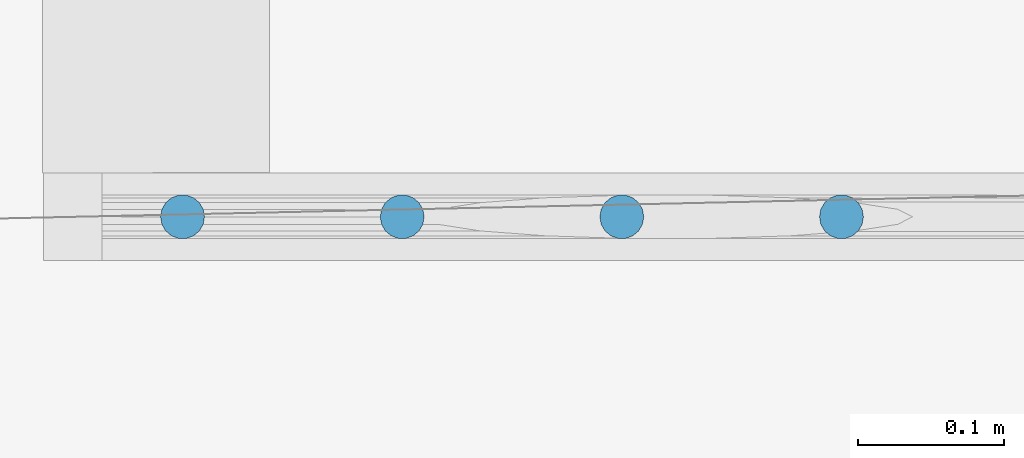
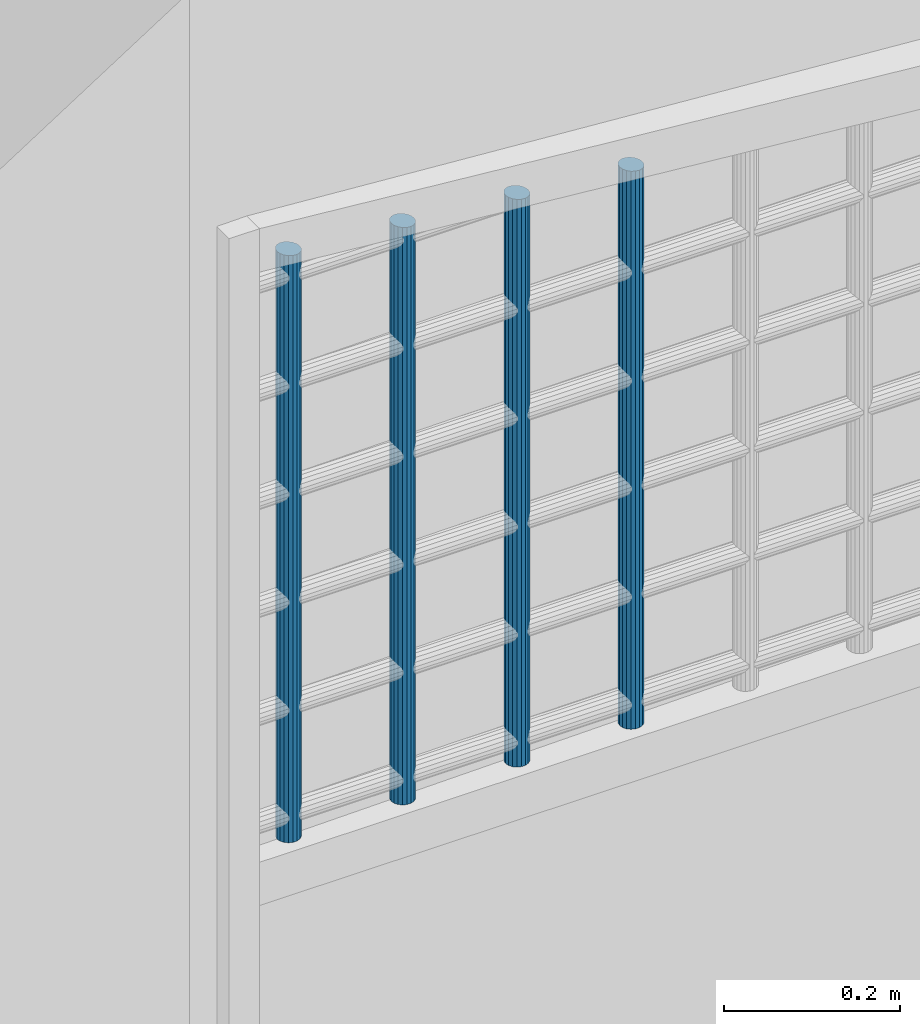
# One storey, part 56 of 133: 4 members, 1 element without a shape of its own.
"""IFC2X3 building model written with IfcOpenShell, lengths in centimetres."""

from ifc_helpers import new_model, entity, si_unit, converted_unit, direction, frame, origin, origin_with_axes, place, context, subcontext, project, spatial, faceted_brep, material, type_object, element, aggregate, save


model = new_model("IFC2X3")

# Units and contexts
model_context = context("Model", 3, precision=0.0001, world=origin(), true_north=direction((0.225632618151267, 0.974212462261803, 0.0)))
body_context = subcontext(model_context, "Body", "Model", "MODEL_VIEW")
ifc_project = project(units=[si_unit("LENGTHUNIT", "METRE", prefix="CENTI"), si_unit("AREAUNIT", "SQUARE_METRE", prefix="CENTI"), si_unit("VOLUMEUNIT", "CUBIC_METRE", prefix="CENTI"), converted_unit("PLANEANGLEUNIT", "DEGREE", entity("IfcRatioMeasure", 0.0174532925), si_unit("PLANEANGLEUNIT", "RADIAN"), dimensions=[0, 0, 0, 0, 0, 0, 0])], contexts=[model_context])

# Site, building, storey
site_placement = place(None, origin_with_axes())
site = spatial("IfcSite", under=ifc_project, at=site_placement, Name="Default Site", CompositionType="ELEMENT")
building_placement = place(site_placement, origin_with_axes())
building = spatial("IfcBuilding", under=site, at=building_placement, Name="Default Building", CompositionType="ELEMENT")
storey_placement = place(building_placement, frame((0.0, 0.0, -291.400371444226), z_axis=(0.0, 0.0, 1.0), x_axis=(1.0, 0.0, 0.0)))
storey = spatial("IfcBuildingStorey", under=building, at=storey_placement, Name="Rez-de-Jardin", CompositionType="ELEMENT", Elevation=-291.400371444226)

# Assembly, members
building_element_proxy_type = type_object("IfcBuildingElementProxyType", Name="Type Object", PredefinedType="NOTDEFINED")
assembly_placement = place(storey_placement, frame((-151.298940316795, 206.642558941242, 0.0), z_axis=(0.0, 0.0, 1.0), x_axis=(1.0, 0.0, 0.0)))
assembly = element("IfcElementAssembly", 1, at=assembly_placement, inside=storey, type_object=building_element_proxy_type, Name="Panneau 76235", ObjectType="Precast panel", PredefinedType="USERDEFINED")
ifc_material = material(Name="Noyer 01")
member_1_placement = place(assembly_placement, frame((10.9095387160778, -2.48696978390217, 158.35565328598), z_axis=(0.089400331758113, 6.5936123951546e-06, 0.995995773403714), x_axis=(0.499497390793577, -0.865154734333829, -0.0448290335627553)))
member_1 = element("IfcMember", 2, at=member_1_placement, material=ifc_material, Name="4294966767", context=body_context, shape_type="Brep", body=[
    faceted_brep([(2.42861286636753e-14, -1.52655665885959e-14, 4.44089209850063e-14), (-0.52146878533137, -1.52655664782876e-14, 3.97427529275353e-06), (-1.01211017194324, -0.178710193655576, 7.71360538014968e-06), (-1.41274550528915, -0.514575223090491, 1.0766971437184e-05), (-1.675052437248, -0.967085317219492, 1.27660938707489e-05), (-1.76739237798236, -1.48166021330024, 1.34698451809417e-05), (-1.67862811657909, -1.99623499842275, 1.27933452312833e-05), (-1.41946572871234, -2.44874417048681, 1.08181883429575e-05), (-1.02116428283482, -2.78460887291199, 7.7826095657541e-06), (-0.531764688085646, -2.96331862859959, 4.0527435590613e-06), (-0.0102959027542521, -2.96331862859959, 7.84683107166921e-08), (0.480345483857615, -2.78460843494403, -3.66086177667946e-06), (0.880980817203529, -2.44874340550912, -6.71422783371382e-06), (1.14328774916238, -1.99623331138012, -8.71335026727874e-06), (1.23562768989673, -1.48165841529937, -9.41710157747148e-06), (1.14686342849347, -0.967083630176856, -8.74060162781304e-06), (0.887701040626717, -0.5145744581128, -6.76544473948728e-06), (0.489399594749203, -0.178709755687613, -3.72986596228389e-06), (4.13437608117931, 6.11036513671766, -80.9828132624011), (4.53304145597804, 5.7751283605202, -80.9909039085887), (4.79325180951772, 5.32442735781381, -81.0141931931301), (4.88362195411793, 4.81262337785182, -81.0498720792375), (4.79325182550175, 4.30144721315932, -81.0936371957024), (4.53304135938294, 3.8525543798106, -81.1402098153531), (4.1343758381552, 3.52008808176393, -81.1839725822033), (3.64534033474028, 3.34414869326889, -81.2196470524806), (3.1249195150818, 3.34595686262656, -81.2429303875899), (2.63588384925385, 3.52529454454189, -81.2510142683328), (2.23721847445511, 3.86053132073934, -81.2429236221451), (1.97700812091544, 4.31123232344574, -81.2196343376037), (1.88663797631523, 4.82303630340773, -81.1839554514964), (1.97700810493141, 5.33421246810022, -81.1401903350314), (2.23721857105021, 5.78310530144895, -81.0936177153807), (2.63588409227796, 6.11557159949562, -81.0498549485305), (3.12491959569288, 6.29151098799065, -81.0141804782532), (3.64534041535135, 6.28970281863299, -80.9908971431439), (0.489399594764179, -0.178709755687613, -1.76495289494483e-06), (0.88770113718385, -0.514574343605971, -6.75220624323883e-06), (4.53304155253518, 5.77512847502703, -80.9909038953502), (4.1343760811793, 6.11036513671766, -80.9828132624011), (0.887701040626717, -0.5145744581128, -6.7654447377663e-06), (1.14686345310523, -0.967083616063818, -1.27126717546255e-05), (4.79325183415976, 5.32442737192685, -81.014193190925), (1.14686342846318, -0.967083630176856, -1.27148768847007e-05), (1.2356276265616, -1.48165842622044, -1.26541447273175e-05), (4.88362189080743, 4.81262336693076, -81.0498720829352), (1.23562768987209, -1.48165841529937, -1.26504470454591e-05), (1.14328772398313, -1.99623330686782, -1.31714603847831e-05), (4.79325180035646, 4.30144721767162, -81.0936371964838), (1.14328774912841, -1.99623331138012, -1.31706790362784e-05), (0.880980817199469, -2.44874340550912, -7.24691631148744e-06), (4.53304135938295, 3.8525543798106, -81.1402098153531), (0.480345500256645, -2.78460845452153, -5.41831519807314e-06), (4.13437585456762, 3.52008806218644, -81.183972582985), (0.480345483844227, -2.78460843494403, -5.41753353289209e-06), (-0.0102958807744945, -2.96331868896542, -9.40972012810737e-07), (3.64534035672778, 3.34414863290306, -81.219647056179), (-0.0102959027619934, -2.96331862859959, -9.37273680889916e-07), (-0.531764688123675, -2.96331860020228, -9.35068341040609e-07), (3.12491951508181, 3.34595689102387, -81.2429303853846), (-0.531764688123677, -2.96331862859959, -9.37273658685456e-07), (-1.02116423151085, -2.78460873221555, 8.40918097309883e-07), (2.63588390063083, 3.52529468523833, -81.2510142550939), (-1.02116428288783, -2.78460887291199, 8.27679258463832e-07), (-1.4194658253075, -2.44874428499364, 5.81493262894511e-06), (2.23721837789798, 3.86053120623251, -81.2429236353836), (-1.41946572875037, -2.44874417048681, 5.82817112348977e-06), (-1.67862814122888, -1.99623501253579, 1.17753981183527e-05), (1.97700809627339, 4.3112323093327, -81.2196343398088), (-1.67862811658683, -1.99623499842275, 1.17776032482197e-05), (-1.76739231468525, -1.48166020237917, 1.17168710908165e-05), (1.88663803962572, 4.82303631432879, -81.1839554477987), (1.97700812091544, 4.31123232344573, -81.2196343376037), (-1.76739237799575, -1.48166021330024, 1.17131734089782e-05), (-1.67505241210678, -0.96708532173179, 1.22341867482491e-05), (1.9770081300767, 5.33421246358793, -81.1401903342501), (-1.67505243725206, -0.967085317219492, 1.22334053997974e-05), (-1.41274550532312, -0.514575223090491, 6.30964267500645e-06), (2.23721857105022, 5.78310530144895, -81.0936177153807), (-1.0121101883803, -0.178710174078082, 4.48104156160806e-06), (2.63588407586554, 6.11557161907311, -81.0498549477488), (2.23721857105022, 5.78310530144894, -81.0936177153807), (-1.01211017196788, -0.178710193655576, 4.4802598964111e-06), (-0.521468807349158, 6.03658147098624e-08, 3.69837625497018e-09), (3.12491957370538, 6.29151104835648, -81.0141804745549), (2.63588409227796, 6.11557159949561, -81.0498549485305), (-0.52146878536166, -1.52655665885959e-14, 4.44089209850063e-14), (2.27303867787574e-14, -2.83973285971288e-08, -2.20527339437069e-09), (3.64534041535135, 6.28970279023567, -80.9908971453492), (0.489399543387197, -0.178709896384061, -1.77819173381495e-06), (4.13437602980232, 6.11036499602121, -80.9828132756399), (3.64534041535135, 6.28970281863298, -80.9908971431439)], [[[0, 1, 2, 3, 4, 5, 6, 7, 8, 9, 10, 11, 12, 13, 14, 15, 16, 17]], [[18, 19, 20, 21, 22, 23, 24, 25, 26, 27, 28, 29, 30, 31, 32, 33, 34, 35]], [[36, 37, 38, 39]], [[40, 41, 42, 19]], [[43, 44, 45, 20]], [[46, 47, 48, 21]], [[49, 50, 51, 22]], [[50, 52, 53, 51]], [[54, 55, 56, 24]], [[57, 58, 59, 25]], [[60, 61, 62, 26]], [[63, 64, 65, 27]], [[66, 67, 68, 28]], [[69, 70, 71, 72]], [[73, 74, 75, 30]], [[76, 77, 78, 31]], [[77, 79, 80, 81]], [[82, 83, 84, 85]], [[86, 87, 88, 34]], [[0, 89, 90, 91]]]),
])
member_2_placement = place(assembly_placement, frame((25.9095400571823, -2.48696978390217, 157.009196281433), z_axis=(0.089400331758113, 6.5936123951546e-06, 0.995995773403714), x_axis=(0.499497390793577, -0.865154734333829, -0.0448290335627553)))
member_2 = element("IfcMember", 3, at=member_2_placement, material=ifc_material, Name="4294966766", context=body_context, shape_type="Brep", body=[
    faceted_brep([(1.52655665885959e-14, -1.2490009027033e-14, 2.22044604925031e-14), (-0.521468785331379, -1.24900089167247e-14, 3.97427527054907e-06), (-1.01211091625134, -0.178711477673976, 7.71361103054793e-06), (-1.41274587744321, -0.514575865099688, 1.07669742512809e-05), (-1.67505280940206, -0.967085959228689, 1.27660966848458e-05), (-1.76739312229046, -1.48166149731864, 1.346985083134e-05), (-1.6786288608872, -1.99623628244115, 1.27933508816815e-05), (-1.41946647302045, -2.44874545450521, 1.08181939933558e-05), (-1.02116518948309, -2.78461043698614, 7.78261645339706e-06), (-0.531765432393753, -2.96331991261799, 4.05274920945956e-06), (-0.010296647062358, -2.96331991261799, 7.84739611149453e-08), (0.480344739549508, -2.78460971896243, -3.6608561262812e-06), (0.880980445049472, -2.44874404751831, -6.71422501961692e-06), (1.14328737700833, -1.99623395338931, -8.71334745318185e-06), (1.23562694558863, -1.48165969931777, -9.41709592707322e-06), (1.14686342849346, -0.967083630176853, -8.7406016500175e-06), (0.887701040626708, -0.514574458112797, -6.76544476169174e-06), (0.489398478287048, -0.178711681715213, -3.72985747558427e-06), (4.07401459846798, 6.00621689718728, -79.6417479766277), (4.47268108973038, 5.67098204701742, -79.64983842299), (4.73289144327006, 5.22028104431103, -79.6731277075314), (4.82326084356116, 4.70847578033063, -79.7088067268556), (4.73289108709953, 4.19730025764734, -79.7525717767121), (4.47268062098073, 3.74840742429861, -79.7991443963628), (4.07401472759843, 3.41594048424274, -79.8429072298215), (3.58497922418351, 3.24000109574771, -79.8785817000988), (3.06455840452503, 3.24180926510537, -79.901865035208), (2.57552311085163, 3.4211475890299, -79.9099488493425), (2.17685736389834, 3.75638372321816, -79.9018582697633), (1.91664701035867, 4.20708472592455, -79.8785689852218), (1.82627686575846, 4.71888870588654, -79.8428900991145), (1.9166473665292, 5.23006551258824, -79.7991249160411), (2.176857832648, 5.67895834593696, -79.7525522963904), (2.57552298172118, 6.01142400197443, -79.7087895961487), (3.06455922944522, 6.18736467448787, -79.6731149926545), (3.58498004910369, 6.1855565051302, -79.6498316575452), (0.489398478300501, -0.178711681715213, -1.96477825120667e-06), (0.887699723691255, -0.514576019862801, -6.94600358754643e-06), (4.47267977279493, 5.67098048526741, -79.6498386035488), (4.07401459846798, 6.00621689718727, -79.6417479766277), (0.887701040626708, -0.514574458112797, -6.76544475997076e-06), (1.14686345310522, -0.967083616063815, -1.27126717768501e-05), (4.7328914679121, 5.22028105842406, -79.6731277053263), (1.14686342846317, -0.967083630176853, -1.27148769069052e-05), (1.23562782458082, -1.48165954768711, -1.27323244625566e-05), (4.82326172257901, 4.7084759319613, -79.7088066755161), (1.23562694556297, -1.48165969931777, -1.27836639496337e-05), (1.14328710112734, -1.99623390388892, -1.32458589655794e-05), (4.73289081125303, 4.19730030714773, -79.7525717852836), (1.14328737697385, -1.99623395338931, -1.32372874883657e-05), (0.880980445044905, -2.44874404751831, -7.31352478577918e-06), (0.880980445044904, -2.44874404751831, -7.31352478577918e-06), (0.480344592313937, -2.7846095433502, -5.54373881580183e-06), (4.07401458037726, 3.41594065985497, -79.8429072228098), (0.480344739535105, -2.78460971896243, -5.55075043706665e-06), (-0.0102966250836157, -2.96331997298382, -1.0741889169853e-06), (3.58497924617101, 3.24000103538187, -79.8785817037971), (-0.0102966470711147, -2.96331991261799, -1.07049058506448e-06), (-0.531765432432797, -2.96331988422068, -1.06828524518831e-06), (3.06455840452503, 3.24180929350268, -79.9018650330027), (3.58497922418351, 3.2400010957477, -79.8785817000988), (-0.531765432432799, -2.96331991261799, -1.07049056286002e-06), (-1.02116538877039, -2.78461098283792, 1.2582903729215e-05), (2.57552291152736, 3.42114704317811, -79.9099489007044), (-1.02116518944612, -2.78461043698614, 1.2634265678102e-05), (-1.41946609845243, -2.44874501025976, 5.74631483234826e-06), (2.1768577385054, 3.7563841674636, -79.9018582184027), (-1.41946647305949, -2.44874545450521, 5.69495421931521e-06), (-1.678628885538, -1.99623629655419, 1.16421812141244e-05), (1.91664698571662, 4.20708471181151, -79.878568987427), (-1.67862886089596, -1.99623628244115, 1.16443863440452e-05), (-1.76739305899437, -1.48166148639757, 1.1583654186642e-05), (1.82627692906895, 4.7188887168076, -79.8428900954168), (-1.76739312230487, -1.48166149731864, 1.15799565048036e-05), (-1.67505303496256, -0.967085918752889, 1.21597881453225e-05), (1.91664714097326, 5.23006555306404, -79.7991249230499), (-1.67505280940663, -0.967085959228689, 1.21667969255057e-05), (-1.41274587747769, -0.514575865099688, 6.24303422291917e-06), (-1.41274587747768, -0.514575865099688, 6.24303422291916e-06), (-1.01211109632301, -0.178711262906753, 4.35561794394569e-06), (2.57552280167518, 6.01142421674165, -79.7087895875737), (-1.012110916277, -0.178711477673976, 4.34704299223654e-06), (-0.521468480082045, -8.38133458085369e-07, -5.13484909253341e-08), (3.06455953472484, 6.18736383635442, -79.673115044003), (2.57552298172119, 6.01142400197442, -79.7087895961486), (-0.521468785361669, -1.2490009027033e-14, 2.22044604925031e-14), (1.3709824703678e-14, -2.83973258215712e-08, -2.20529559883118e-09), (3.58498004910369, 6.18555647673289, -79.6498316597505), (0.489399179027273, -0.178709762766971, -1.78421472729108e-06), (4.07401529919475, 6.00621881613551, -79.6417477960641)], [[[0, 1, 2, 3, 4, 5, 6, 7, 8, 9, 10, 11, 12, 13, 14, 15, 16, 17]], [[18, 19, 20, 21, 22, 23, 24, 25, 26, 27, 28, 29, 30, 31, 32, 33, 34, 35]], [[36, 37, 38, 39]], [[40, 41, 42, 19]], [[43, 44, 45, 20]], [[46, 47, 48, 21]], [[49, 50, 23, 22]], [[51, 52, 53, 23]], [[54, 55, 56, 24]], [[57, 58, 59, 60]], [[61, 62, 63, 26]], [[64, 65, 66, 27]], [[67, 68, 69, 28]], [[70, 71, 72, 29]], [[73, 74, 75, 30]], [[76, 77, 32, 31]], [[78, 79, 80, 32]], [[81, 82, 83, 84]], [[85, 86, 87, 34]], [[0, 88, 89, 35]]]),
])
member_3_placement = place(assembly_placement, frame((40.9095376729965, -2.48696978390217, 155.662739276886), z_axis=(0.0894117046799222, -1.31048499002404e-05, 0.995994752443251), x_axis=(0.499496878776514, -0.86515384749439, -0.0448518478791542)))
member_3 = element("IfcMember", 4, at=member_3_placement, material=ifc_material, Name="4294966765", context=body_context, shape_type="Brep", body=[
    faceted_brep([(1.94289029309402e-14, -5.55111512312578e-15, 2.22044604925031e-14), (-0.521469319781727, -5.55111522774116e-15, -7.89891550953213e-06), (-1.01211027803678, -0.178708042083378, -1.53308608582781e-05), (-1.41274583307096, -0.514571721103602, -2.13994564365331e-05), (-1.67505303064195, -0.967080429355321, -2.53727340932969e-05), (-1.76739499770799, -1.4816570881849, -2.67714767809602e-05), (-1.67863090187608, -1.99623074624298, -2.54269296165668e-05), (-1.41946984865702, -2.44874129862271, -2.15013079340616e-05), (-1.02116936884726, -2.78460734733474, -1.54680827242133e-05), (-0.531769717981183, -2.96331732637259, -8.05493998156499e-06), (-0.0103003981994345, -2.96331732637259, -1.56024449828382e-07), (0.480340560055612, -2.78460928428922, 7.27592089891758e-06), (0.880977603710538, -2.44874303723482, 1.33445390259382e-05), (1.14328480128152, -1.9962343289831, 1.7317816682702e-05), (1.23562527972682, -1.4816602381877, 1.87165368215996e-05), (1.14686118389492, -0.967086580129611, 1.73719896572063e-05), (0.887700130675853, -0.514576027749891, 1.34463679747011e-05), (0.489399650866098, -0.178709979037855, 7.4131427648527e-06), (4.01544896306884, 5.90206605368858, -78.3005908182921), (4.41411355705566, 5.56682793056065, -78.3086724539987), (4.67432364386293, 5.11612646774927, -78.3319558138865), (4.76469444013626, 4.60432361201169, -78.367632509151), (4.67432477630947, 4.0931482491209, -78.4113996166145), (4.41411457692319, 3.64425587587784, -78.4579781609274), (4.01544834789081, 3.31178835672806, -78.501750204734), (3.52641409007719, 3.13585111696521, -78.537435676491), (3.00599380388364, 3.13766020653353, -78.560730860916), (2.51695826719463, 3.3169981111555, -78.5688259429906), (2.11829367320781, 3.65223623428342, -78.560744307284), (1.85808358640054, 4.10293769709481, -78.5374609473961), (1.76771279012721, 4.61474055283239, -78.5017842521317), (1.8580839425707, 5.12591848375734, -78.4580168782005), (2.11829414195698, 5.5748108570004, -78.4114383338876), (2.51695888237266, 5.90727580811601, -78.3676665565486), (3.00599314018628, 6.08321304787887, -78.3319810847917), (3.52641342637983, 6.08140395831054, -78.3086859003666), (0.489399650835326, -0.178709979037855, 9.44466713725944e-06), (0.887700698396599, -0.514575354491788, 1.35242185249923e-05), (4.41411412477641, 5.56682860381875, -78.3086723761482), (4.01544896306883, 5.90206605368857, -78.3005908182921), (0.887700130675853, -0.514576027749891, 1.34463679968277e-05), (1.1468612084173, -0.967086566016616, 2.52731108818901e-05), (4.67432366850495, 5.11612648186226, -78.3319558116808), (1.14686118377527, -0.967086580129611, 2.52709051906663e-05), (1.23562427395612, -1.48166041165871, 2.7430846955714e-05), (4.76469343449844, 4.60432343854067, -78.3676325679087), (4.67432364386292, 5.11612646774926, -78.3319558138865), (1.23562527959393, -1.4816602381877, 2.74896047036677e-05), (1.14328452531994, -1.99623427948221, 2.4924934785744e-05), (4.67432450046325, 4.09314829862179, -78.4113996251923), (4.76469444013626, 4.60432361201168, -78.3676325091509), (1.14328480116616, -1.9962343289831, 2.49335125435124e-05), (0.880977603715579, -2.44874303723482, 1.30116844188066e-05), (4.41411457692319, 3.64425587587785, -78.4579781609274), (0.88097760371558, -2.44874303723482, 1.30116844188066e-05), (0.480340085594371, -2.78460871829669, 5.54183658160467e-06), (4.01544787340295, 3.31178892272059, -78.5017501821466), (0.480340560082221, -2.78460928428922, 5.51924919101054e-06), (-0.0103000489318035, -2.96331828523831, -1.09728109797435e-06), (3.52641443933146, 3.13585015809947, -78.5374357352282), (4.0154483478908, 3.31178835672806, -78.501750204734), (-0.0103003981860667, -2.96331732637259, -1.03854387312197e-06), (-0.531769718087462, -2.96331729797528, -1.03633851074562e-06), (3.00599380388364, 3.13766023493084, -78.5607308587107), (3.52641409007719, 3.1358511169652, -78.537435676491), (-0.531769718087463, -2.96331732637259, -1.03854382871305e-06), (-1.02116906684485, -2.78460652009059, -1.04053644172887e-05), (2.51695856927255, 3.31699893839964, -78.568825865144), (-1.02116936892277, -2.78460734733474, -1.04832109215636e-05), (-1.41947041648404, -2.44874197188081, -1.456276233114e-05), (2.11829310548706, 3.65223556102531, -78.5607443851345), (2.51695826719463, 3.3169981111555, -78.5688259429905), (-1.4194698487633, -2.44874129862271, -1.44849118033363e-05), (-1.67863092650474, -1.99623076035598, -2.63116547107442e-05), (1.85808356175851, 4.10293768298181, -78.5374609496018), (2.1182936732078, 3.65223623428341, -78.560744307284), (-1.67863090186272, -1.99623074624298, -2.63094490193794e-05), (-1.76739399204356, -1.48165691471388, -2.84693907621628e-05), (1.76771379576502, 4.6147407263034, -78.5017841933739), (-1.76739499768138, -1.4816570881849, -2.85281485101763e-05), (-1.67505375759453, -0.967080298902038, -2.57281942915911e-05), (1.85808321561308, 5.12591861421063, -78.4580169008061), (1.7677127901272, 4.61474055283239, -78.5017842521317), (-1.67505303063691, -0.967080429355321, -2.57055887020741e-05), (-1.41274583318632, -0.514571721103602, -1.37837605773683e-05), (-1.01211045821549, -0.178707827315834, -6.54922214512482e-06), (2.51695870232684, 5.90727602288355, -78.3676665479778), (-1.01211027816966, -0.178708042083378, -6.55779299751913e-06), (-0.521469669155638, 9.58865715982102e-07, 5.87372690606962e-08), (3.00599279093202, 6.08321400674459, -78.3319810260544), (2.51695888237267, 5.907275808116, -78.3676665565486), (-0.521469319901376, -5.55111512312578e-15, 4.44089209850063e-14), (1.78731627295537e-14, -2.83973172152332e-08, -2.20529546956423e-09), (3.52641342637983, 6.08140392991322, -78.3086859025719), (0.489399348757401, -0.178710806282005, 9.36682063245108e-06), (4.01544866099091, 5.90206522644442, -78.3005908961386), (3.52641342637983, 6.08140395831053, -78.3086859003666)], [[[0, 1, 2, 3, 4, 5, 6, 7, 8, 9, 10, 11, 12, 13, 14, 15, 16, 17]], [[18, 19, 20, 21, 22, 23, 24, 25, 26, 27, 28, 29, 30, 31, 32, 33, 34, 35]], [[36, 37, 38, 39]], [[40, 41, 42, 19]], [[43, 44, 45, 46]], [[47, 48, 49, 50]], [[51, 52, 53, 22]], [[54, 55, 56, 23]], [[57, 58, 59, 60]], [[61, 62, 63, 64]], [[65, 66, 67, 26]], [[68, 69, 70, 71]], [[72, 73, 74, 75]], [[76, 77, 78, 29]], [[79, 80, 81, 82]], [[83, 84, 32, 31]], [[84, 85, 86, 32]], [[87, 88, 89, 90]], [[91, 92, 93, 34]], [[0, 94, 95, 96]]]),
])
member_4_placement = place(assembly_placement, frame((55.909538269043, -2.48696978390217, 154.316294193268), z_axis=(0.0894003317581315, 6.59361240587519e-06, 0.995995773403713), x_axis=(0.499497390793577, -0.865154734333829, -0.0448290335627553)))
member_4 = element("IfcMember", 5, at=member_4_placement, material=ifc_material, Name="4294966764", context=body_context, shape_type="Brep", body=[
    faceted_brep([(-2.77555756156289e-14, 1.11022302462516e-14, 4.44089209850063e-14), (-0.521468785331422, 1.66533454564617e-14, 3.97427527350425e-06), (-1.01210942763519, -0.178708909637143, 7.71359967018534e-06), (-1.41274438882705, -0.514573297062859, 1.07669628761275e-05), (-1.67505132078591, -0.967083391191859, 1.2766085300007e-05), (-1.76739088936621, -1.48165764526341, 1.34698337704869e-05), (-1.67862886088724, -1.99623628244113, 1.27933508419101e-05), (-1.41946647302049, -2.44874545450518, 1.08181939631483e-05), (-1.02116539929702, -2.78461079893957, 7.78261803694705e-06), (-0.531765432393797, -2.96331991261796, 4.05274921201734e-06), (-0.0102966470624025, -2.96331991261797, 7.84739829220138e-08), (0.480346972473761, -2.7846058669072, -3.66087310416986e-06), (0.880981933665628, -2.44874147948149, -6.71423631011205e-06), (1.14328886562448, -1.99623138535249, -8.71335873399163e-06), (1.23562843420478, -1.48165713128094, -9.41710720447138e-06), (1.14686342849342, -0.967083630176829, -8.74060158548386e-06), (0.887701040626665, -0.514574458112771, -6.76544470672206e-06), (0.489400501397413, -0.178708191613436, -3.72987285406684e-06), (3.95329588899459, 5.79792776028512, -76.9596286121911), (4.35196089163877, 5.46269034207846, -76.9677193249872), (4.61217124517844, 5.01198933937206, -76.9910086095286), (4.70254213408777, 4.50018664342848, -77.0266873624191), (4.61217237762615, 3.98901112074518, -77.0704524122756), (4.35196191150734, 3.54011828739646, -77.1170250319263), (3.95329676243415, 3.20765263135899, -77.1607877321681), (3.46425902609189, 3.03170939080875, -77.196462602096), (2.94383820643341, 3.03351756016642, -77.2197459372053), (2.4548021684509, 3.21285460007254, -77.2278298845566), (2.05613716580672, 3.5480920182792, -77.2197391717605), (1.79592681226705, 3.99879302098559, -77.1964498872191), (1.70555890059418, 4.51060085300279, -77.1607706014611), (1.79592865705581, 5.02177637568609, -77.1170055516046), (2.05613912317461, 5.47066920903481, -77.0704329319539), (2.45480427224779, 5.80313486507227, -77.0266702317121), (2.9438390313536, 5.97907296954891, -76.9909958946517), (3.46425985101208, 5.97726480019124, -76.9677125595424), (0.489400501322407, -0.178708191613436, -1.3571539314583e-05), (0.887701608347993, -0.514573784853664, -6.68760713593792e-06), (4.3519614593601, 5.46269101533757, -76.9677192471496), (0.887701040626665, -0.514574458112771, -6.7654447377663e-06), (1.14686345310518, -0.967083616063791, -1.27126717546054e-05), (4.61217126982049, 5.0119893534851, -76.9910086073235), (1.14686342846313, -0.967083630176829, -1.27148768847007e-05), (1.23562742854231, -1.48165730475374, -1.25759650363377e-05), (4.70254112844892, 4.50018646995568, -77.0266874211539), (1.23562843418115, -1.48165713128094, -1.25172301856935e-05), (1.14328858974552, -1.99623133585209, -1.29794252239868e-05), (4.61217210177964, 3.98901117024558, -77.0704524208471), (1.14328886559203, -1.99623138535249, -1.297085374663e-05), (0.880981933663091, -2.44874147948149, -7.04709104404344e-06), (4.61217237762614, 3.98901112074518, -77.0704524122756), (0.480347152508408, -2.78460608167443, -5.15967478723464e-06), (3.95329694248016, 3.20765241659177, -77.160787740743), (0.480346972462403, -2.7846058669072, -5.15109983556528e-06), (-0.0102976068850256, -2.96331727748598, -9.09048382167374e-07), (3.46425806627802, 3.03171202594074, -77.1964624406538), (-0.0102966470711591, -2.96331991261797, -1.07049058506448e-06), (-0.531765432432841, -2.96331988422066, -1.06828526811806e-06), (2.94383820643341, 3.03351758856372, -77.219745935), (3.46425902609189, 3.03170939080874, -77.196462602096), (-0.531765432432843, -2.96331991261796, -1.07049058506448e-06), (-1.02116509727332, -2.78460997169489, 7.05693528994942e-07), (2.45480247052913, 3.21285542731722, -77.227829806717), (-1.02116539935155, -2.78461079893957, 6.27853902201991e-07), (-1.41946704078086, -2.44874612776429, 5.61711659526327e-06), (2.05613659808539, 3.5480913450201, -77.2197392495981), (-1.41946647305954, -2.44874545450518, 5.69495419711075e-06), (-1.67862888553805, -1.99623629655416, 1.16421812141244e-05), (1.795926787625, 3.99879300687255, -77.1964498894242), (-1.678628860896, -1.99623628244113, 1.16443863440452e-05), (-1.76739365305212, -1.48165812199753, 1.18181933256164e-05), (1.70555613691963, 4.51060037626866, -77.1607707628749), (-1.76739088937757, -1.48165764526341, 1.19796071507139e-05), (-1.67505104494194, -0.967083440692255, 1.24418021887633e-05), (1.79592893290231, 5.02177632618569, -77.1170055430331), (-1.67505132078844, -0.967083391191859, 1.24332307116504e-05), (-1.4127443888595, -0.514573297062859, 6.50946800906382e-06), (-1.01210960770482, -0.178708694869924, 4.62205175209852e-06), (2.45480409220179, 5.80313507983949, -77.0266702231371), (-1.01210942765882, -0.178708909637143, 4.61347680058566e-06), (-0.521469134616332, 9.5886512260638e-07, 5.87452212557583e-08), (2.94383868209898, 5.97907392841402, -76.9909958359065), (2.45480427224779, 5.80313486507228, -77.0266702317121), (-0.521468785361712, 1.66533453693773e-14, 4.44089209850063e-14), (-2.93113172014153e-14, -2.83972967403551e-08, -2.20527296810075e-09), (3.46425985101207, 5.97726477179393, -76.9677125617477), (0.489400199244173, -0.178709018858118, -1.36493789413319e-05), (3.95329558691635, 5.79792693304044, -76.9596286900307), (3.46425985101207, 5.97726480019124, -76.9677125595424)], [[[0, 1, 2, 3, 4, 5, 6, 7, 8, 9, 10, 11, 12, 13, 14, 15, 16, 17]], [[18, 19, 20, 21, 22, 23, 24, 25, 26, 27, 28, 29, 30, 31, 32, 33, 34, 35]], [[36, 37, 38, 18]], [[39, 40, 41, 19]], [[42, 43, 44, 20]], [[45, 46, 47, 21]], [[48, 49, 23, 50]], [[49, 51, 52, 23]], [[53, 54, 55, 24]], [[56, 57, 58, 59]], [[60, 61, 62, 26]], [[63, 64, 65, 27]], [[66, 67, 68, 28]], [[69, 70, 71, 29]], [[72, 73, 74, 30]], [[75, 76, 32, 31]], [[76, 77, 78, 32]], [[79, 80, 81, 82]], [[83, 84, 85, 34]], [[0, 86, 87, 88]]]),
])
aggregate(assembly, [member_1, member_2, member_3, member_4])

save(model, "model.ifc")
